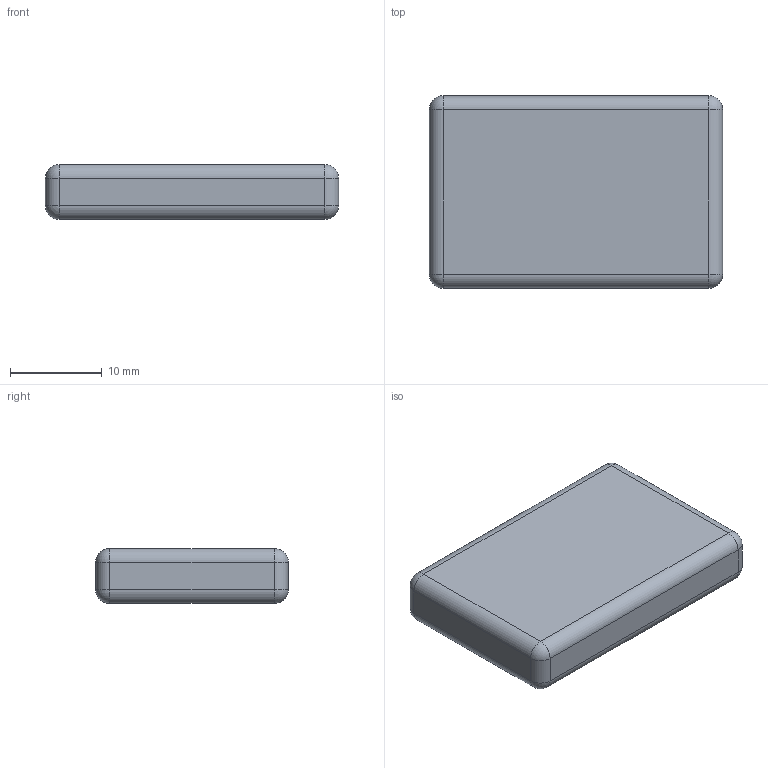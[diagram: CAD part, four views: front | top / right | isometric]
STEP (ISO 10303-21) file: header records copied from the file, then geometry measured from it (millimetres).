
FILE_DESCRIPTION(/* description */ ('STEP AP242 Edition 2','CAx-IF Rec.Pracs.---Representation and Presentation of Product Manufacturing Information (PMI)---4.0---2014-10-13','CAx-IF Rec.Pracs.---3D Tessellated Geometry---0.4---2014-09-14','2;1','CAx-IF Rec.Pracs.---User Defined Attributes---1.5---2016-08-15'),/* implementation_level */ '2;1');
FILE_NAME(/* name */ 'bb_v3 - battery-mockup',/* time_stamp */ '2026-05-01T07:59:48Z',/* author */ (''),/* organization */ (''),/* preprocessor_version */ 'ST-DEVELOPER v20',/* originating_system */ 'ONSHAPE BY PTC INC, 1.214',/* authorisation */ ' ');
FILE_SCHEMA (('AP242_MANAGED_MODEL_BASED_3D_ENGINEERING_MIM_LF { 1 0 10303 442 3 1 4 }'));
Length unit declared in the file: metre
Products named in the file (1): battery-mockup
Bounding box: 32 x 21 x 6 mm (x, y, z)
Volume: 3922.6 mm3; surface area: 1825.5 mm2
Topology: 1 solids, 1 shells, 26 faces, 56 edges, 24 vertices
Faces by surface type: cylinder 12, sphere 8, plane 6
Entity records: 646 total; most frequent: DIRECTION 126, CARTESIAN_POINT 99, ORIENTED_EDGE 96, AXIS2_PLACEMENT_3D 51, EDGE_CURVE 48, EDGE_LOOP 26, FACE_BOUND 26, ADVANCED_FACE 26
